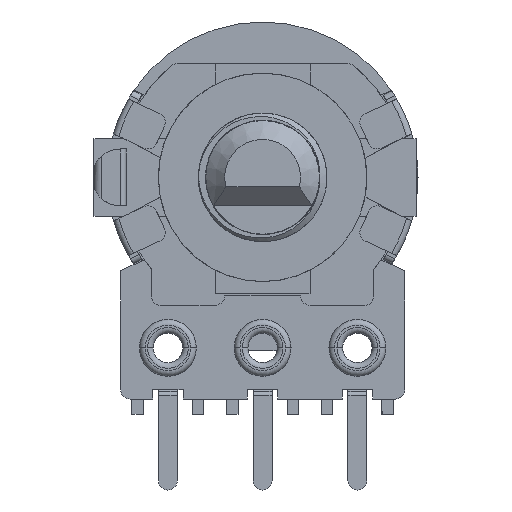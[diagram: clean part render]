
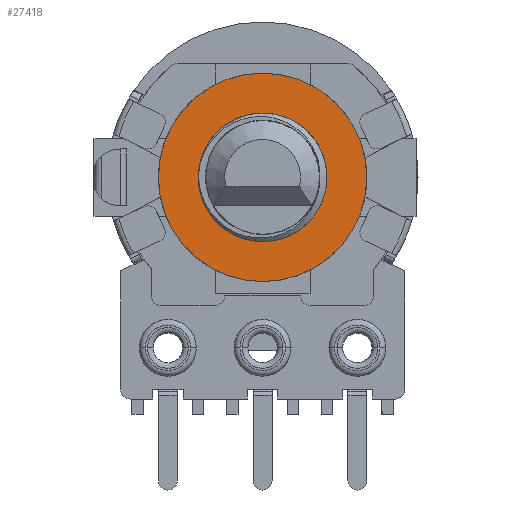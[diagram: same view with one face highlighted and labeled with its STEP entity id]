
A CAD part, front view. The second image highlights one B-rep face of the part: STEP entity #27418.
In plain terms, the highlighted planar face has unit normal (0, -1, 0) as drawn and (0, 0, 1) by its records, which use the part's own axes.
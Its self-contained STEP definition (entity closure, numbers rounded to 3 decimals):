
#1183 = EDGE_LOOP ( 'NONE', ( #18918, #18915, #18913 ) ) ;
#1186 = EDGE_LOOP ( 'NONE', ( #18937, #18882 ) ) ;
#3758 = AXIS2_PLACEMENT_3D ( 'NONE', #8278, #8284, #8285 ) ;
#3859 = AXIS2_PLACEMENT_3D ( 'NONE', #10094, #10108, #10109 ) ;
#3978 = AXIS2_PLACEMENT_3D ( 'NONE', #11187, #11200, #11201 ) ;
#8278 = CARTESIAN_POINT ( 'NONE',  ( 0., 0., 4. ) ) ;
#8284 = DIRECTION ( 'NONE',  ( 0., 0., -1. ) ) ;
#8285 = DIRECTION ( 'NONE',  ( 0., -1., 0. ) ) ;
#8737 = CIRCLE ( 'NONE', #3758, 3.02 ) ;
#9166 = CIRCLE ( 'NONE', #3859, 5.5 ) ;
#9647 = CIRCLE ( 'NONE', #3978, 5.5 ) ;
#10094 = CARTESIAN_POINT ( 'NONE',  ( 0., 0., 4. ) ) ;
#10108 = DIRECTION ( 'NONE',  ( 0., 0., -1. ) ) ;
#10109 = DIRECTION ( 'NONE',  ( 0., -1., 0. ) ) ;
#10125 = CARTESIAN_POINT ( 'NONE',  ( 0.155, -3.386, 4. ) ) ;
#10129 = CARTESIAN_POINT ( 'NONE',  ( 0.363, -3.37, 4. ) ) ;
#10130 = CARTESIAN_POINT ( 'NONE',  ( 0.566, -3.335, 4. ) ) ;
#10131 = CARTESIAN_POINT ( 'NONE',  ( 0.964, -3.227, 4. ) ) ;
#10132 = CARTESIAN_POINT ( 'NONE',  ( 1.16, -3.154, 4. ) ) ;
#10133 = CARTESIAN_POINT ( 'NONE',  ( 1.534, -2.973, 4. ) ) ;
#10134 = CARTESIAN_POINT ( 'NONE',  ( 1.71, -2.866, 4. ) ) ;
#10135 = CARTESIAN_POINT ( 'NONE',  ( 2.041, -2.62, 4. ) ) ;
#10136 = CARTESIAN_POINT ( 'NONE',  ( 2.198, -2.48, 4. ) ) ;
#10137 = CARTESIAN_POINT ( 'NONE',  ( 2.479, -2.176, 4. ) ) ;
#10138 = CARTESIAN_POINT ( 'NONE',  ( 2.604, -2.013, 4. ) ) ;
#10139 = CARTESIAN_POINT ( 'NONE',  ( 2.824, -1.663, 4. ) ) ;
#10140 = CARTESIAN_POINT ( 'NONE',  ( 2.919, -1.475, 4. ) ) ;
#10141 = CARTESIAN_POINT ( 'NONE',  ( 3.068, -1.09, 4. ) ) ;
#10142 = CARTESIAN_POINT ( 'NONE',  ( 3.124, -0.892, 4. ) ) ;
#10143 = CARTESIAN_POINT ( 'NONE',  ( 3.197, -0.484, 4. ) ) ;
#10144 = CARTESIAN_POINT ( 'NONE',  ( 3.213, -0.275, 4. ) ) ;
#10145 = CARTESIAN_POINT ( 'NONE',  ( 3.202, 0.343, 4. ) ) ;
#10146 = CARTESIAN_POINT ( 'NONE',  ( 3.113, 0.758, 4. ) ) ;
#10147 = CARTESIAN_POINT ( 'NONE',  ( 2.87, 1.326, 4. ) ) ;
#10148 = CARTESIAN_POINT ( 'NONE',  ( 2.769, 1.511, 4. ) ) ;
#10149 = CARTESIAN_POINT ( 'NONE',  ( 2.535, 1.853, 4. ) ) ;
#10150 = CARTESIAN_POINT ( 'NONE',  ( 2.403, 2.01, 4. ) ) ;
#10151 = CARTESIAN_POINT ( 'NONE',  ( 2.106, 2.297, 4. ) ) ;
#10152 = CARTESIAN_POINT ( 'NONE',  ( 1.941, 2.428, 4. ) ) ;
#10153 = CARTESIAN_POINT ( 'NONE',  ( 1.593, 2.65, 4. ) ) ;
#10154 = CARTESIAN_POINT ( 'NONE',  ( 1.409, 2.743, 4. ) ) ;
#10155 = CARTESIAN_POINT ( 'NONE',  ( 1.021, 2.892, 4. ) ) ;
#10156 = CARTESIAN_POINT ( 'NONE',  ( 0.82, 2.946, 4. ) ) ;
#10157 = CARTESIAN_POINT ( 'NONE',  ( 0.414, 3.014, 4. ) ) ;
#10158 = CARTESIAN_POINT ( 'NONE',  ( 0.209, 3.027, 4. ) ) ;
#10159 = CARTESIAN_POINT ( 'NONE',  ( 0., 3.02, 4. ) ) ;
#10287 = CARTESIAN_POINT ( 'NONE',  ( -0.272, 3.008, 4. ) ) ;
#10293 = CARTESIAN_POINT ( 'NONE',  ( -0.481, 2.997, 4. ) ) ;
#10294 = CARTESIAN_POINT ( 'NONE',  ( -0.684, 2.965, 4. ) ) ;
#10295 = CARTESIAN_POINT ( 'NONE',  ( -1.083, 2.861, 4. ) ) ;
#10296 = CARTESIAN_POINT ( 'NONE',  ( -1.28, 2.788, 4. ) ) ;
#10297 = CARTESIAN_POINT ( 'NONE',  ( -1.652, 2.605, 4. ) ) ;
#10298 = CARTESIAN_POINT ( 'NONE',  ( -1.827, 2.496, 4. ) ) ;
#10299 = CARTESIAN_POINT ( 'NONE',  ( -2.154, 2.243, 4. ) ) ;
#10300 = CARTESIAN_POINT ( 'NONE',  ( -2.306, 2.098, 4. ) ) ;
#10301 = CARTESIAN_POINT ( 'NONE',  ( -2.709, 1.629, 4. ) ) ;
#10302 = CARTESIAN_POINT ( 'NONE',  ( -2.915, 1.258, 4. ) ) ;
#10303 = CARTESIAN_POINT ( 'NONE',  ( -3.107, 0.669, 4. ) ) ;
#10304 = CARTESIAN_POINT ( 'NONE',  ( -3.152, 0.464, 4. ) ) ;
#10305 = CARTESIAN_POINT ( 'NONE',  ( -3.202, 0.053, 4. ) ) ;
#10306 = CARTESIAN_POINT ( 'NONE',  ( -3.206, -0.153, 4. ) ) ;
#10307 = CARTESIAN_POINT ( 'NONE',  ( -3.176, -0.565, 4. ) ) ;
#10308 = CARTESIAN_POINT ( 'NONE',  ( -3.14, -0.772, 4. ) ) ;
#10309 = CARTESIAN_POINT ( 'NONE',  ( -3.031, -1.17, 4. ) ) ;
#10310 = CARTESIAN_POINT ( 'NONE',  ( -2.958, -1.362, 4. ) ) ;
#10311 = CARTESIAN_POINT ( 'NONE',  ( -2.68, -1.921, 4. ) ) ;
#10312 = CARTESIAN_POINT ( 'NONE',  ( -2.427, -2.254, 4. ) ) ;
#10313 = CARTESIAN_POINT ( 'NONE',  ( -1.963, -2.672, 4. ) ) ;
#10314 = CARTESIAN_POINT ( 'NONE',  ( -1.797, -2.795, 4. ) ) ;
#10315 = CARTESIAN_POINT ( 'NONE',  ( -1.445, -3.009, 4. ) ) ;
#10316 = CARTESIAN_POINT ( 'NONE',  ( -1.257, -3.101, 4. ) ) ;
#10317 = CARTESIAN_POINT ( 'NONE',  ( -0.869, -3.247, 4. ) ) ;
#10318 = CARTESIAN_POINT ( 'NONE',  ( -0.67, -3.301, 4. ) ) ;
#10319 = CARTESIAN_POINT ( 'NONE',  ( -0.263, -3.373, 4. ) ) ;
#10320 = CARTESIAN_POINT ( 'NONE',  ( -0.054, -3.389, 4. ) ) ;
#10321 = CARTESIAN_POINT ( 'NONE',  ( 0.155, -3.386, 4. ) ) ;
#11187 = CARTESIAN_POINT ( 'NONE',  ( 0., 0., 4. ) ) ;
#11200 = DIRECTION ( 'NONE',  ( 0., 0., -1. ) ) ;
#11201 = DIRECTION ( 'NONE',  ( 0., -1., 0. ) ) ;
#11692 = CARTESIAN_POINT ( 'NONE',  ( 0., 5.5, 4. ) ) ;
#11772 = CARTESIAN_POINT ( 'NONE',  ( 0., 3.02, 4. ) ) ;
#11818 = CARTESIAN_POINT ( 'NONE',  ( -0.272, 3.008, 4. ) ) ;
#11851 = CARTESIAN_POINT ( 'NONE',  ( 0., -5.5, 4. ) ) ;
#12166 = CARTESIAN_POINT ( 'NONE',  ( 0.155, -3.386, 4. ) ) ;
#16812 = AXIS2_PLACEMENT_3D ( 'NONE', #20247, #20256, #20257 ) ;
#18882 = ORIENTED_EDGE ( 'NONE', *, *, #23912, .F. ) ;
#18913 = ORIENTED_EDGE ( 'NONE', *, *, #23920, .F. ) ;
#18915 = ORIENTED_EDGE ( 'NONE', *, *, #23626, .T. ) ;
#18918 = ORIENTED_EDGE ( 'NONE', *, *, #23932, .F. ) ;
#18937 = ORIENTED_EDGE ( 'NONE', *, *, #24240, .F. ) ;
#19755 = FACE_OUTER_BOUND ( 'NONE', #1186, .T. ) ;
#19761 = FACE_BOUND ( 'NONE', #1183, .T. ) ;
#20247 = CARTESIAN_POINT ( 'NONE',  ( 0., 0., 4. ) ) ;
#20248 = PLANE ( 'NONE',  #16812 ) ;
#20256 = DIRECTION ( 'NONE',  ( 0., 0., -1. ) ) ;
#20257 = DIRECTION ( 'NONE',  ( 0., -1., 0. ) ) ;
#23626 = EDGE_CURVE ( 'NONE', #26062, #26016, #8737, .T. ) ;
#23912 = EDGE_CURVE ( 'NONE', #25936, #26095, #9166, .T. ) ;
#23920 = EDGE_CURVE ( 'NONE', #26410, #26016, #26902, .T. ) ;
#23932 = EDGE_CURVE ( 'NONE', #26062, #26410, #25781, .T. ) ;
#24240 = EDGE_CURVE ( 'NONE', #26095, #25936, #9647, .T. ) ;
#25781 = B_SPLINE_CURVE_WITH_KNOTS ( 'NONE', 3,
 ( #10287, #10293, #10294, #10295, #10296, #10297, #10298, #10299, #10300, #10301, #10302, #10303, #10304, #10305, #10306, #10307, #10308, #10309, #10310, #10311, #10312, #10313, #10314, #10315, #10316, #10317, #10318, #10319, #10320, #10321 ),
 .UNSPECIFIED., .F., .F.,
 ( 4, 2, 2, 2, 2, 2, 2, 2, 2, 2, 2, 2, 2, 2, 4 ),
 ( 0., 0.001, 0.001, 0.002, 0.002, 0.004, 0.004, 0.005, 0.006, 0.006, 0.007, 0.008, 0.009, 0.009, 0.01 ),
 .UNSPECIFIED. ) ;
#25936 = VERTEX_POINT ( 'NONE', #11692 ) ;
#26016 = VERTEX_POINT ( 'NONE', #11772 ) ;
#26062 = VERTEX_POINT ( 'NONE', #11818 ) ;
#26095 = VERTEX_POINT ( 'NONE', #11851 ) ;
#26410 = VERTEX_POINT ( 'NONE', #12166 ) ;
#26902 = B_SPLINE_CURVE_WITH_KNOTS ( 'NONE', 3,
 ( #10125, #10129, #10130, #10131, #10132, #10133, #10134, #10135, #10136, #10137, #10138, #10139, #10140, #10141, #10142, #10143, #10144, #10145, #10146, #10147, #10148, #10149, #10150, #10151, #10152, #10153, #10154, #10155, #10156, #10157, #10158, #10159 ),
 .UNSPECIFIED., .F., .F.,
 ( 4, 2, 2, 2, 2, 2, 2, 2, 2, 2, 2, 2, 2, 2, 2, 4 ),
 ( 0., 0.001, 0.001, 0.002, 0.002, 0.003, 0.004, 0.004, 0.005, 0.006, 0.007, 0.007, 0.008, 0.009, 0.009, 0.01 ),
 .UNSPECIFIED. ) ;
#27418 = ADVANCED_FACE ( 'NONE', ( #19755, #19761 ), #20248, .F. ) ;
